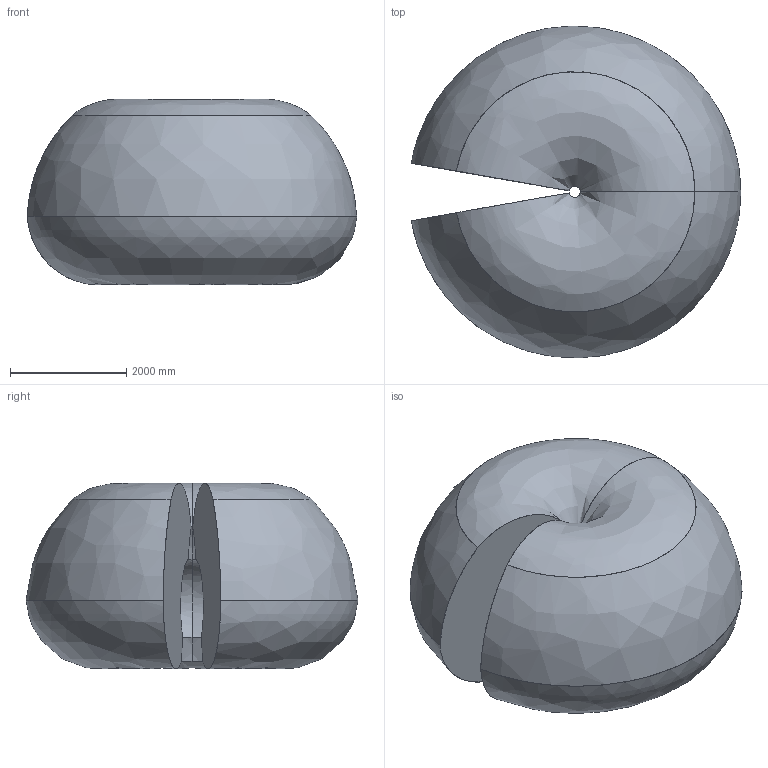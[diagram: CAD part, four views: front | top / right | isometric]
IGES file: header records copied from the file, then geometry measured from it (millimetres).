
Start section: SolidWorks IGES file using analytic representation for surfaces
Global section: file name: C:\Users\SEJAOLS6\OneDrive - ABB\Documents\SAP\7710\7710_Lightweight_models\IRB7710-LID-SW_400kg-285_OC_01_SW_J\IRB7710-LID-SW_400kg-285_OC_01_IGES_J\IRB7710_All-285_OC_00_Working-space.igs; native system: SolidWorks 2024; preprocessor: SolidWorks 2024; author: SEJAOLS6; date: 260127.071739; units: millimetre
Bounding box: 5667.14 x 5709.66 x 3193.65 mm (x, y, z)
Surface area: 99851107.8 mm2 (no closed solid volume)
Topology: 0 solids, 0 shells, 13 faces, 294 edges, 294 vertices
Faces by surface type: bspline 13
